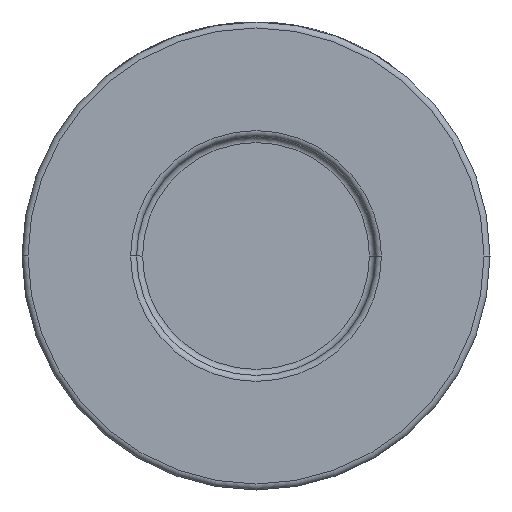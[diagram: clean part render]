
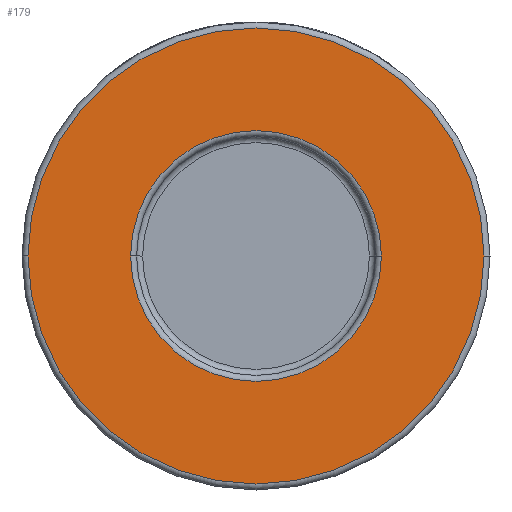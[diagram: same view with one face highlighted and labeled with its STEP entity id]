
A CAD part, front view. The second image highlights one B-rep face of the part: STEP entity #179.
In plain terms, the highlighted planar face has unit normal (0, -1, 0).
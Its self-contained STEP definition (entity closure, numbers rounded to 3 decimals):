
#106 = CARTESIAN_POINT ( 'NONE',  ( -38., -26., 0. ) ) ;
#120 = DIRECTION ( 'NONE',  ( 0., -1., 0. ) ) ;
#126 = ORIENTED_EDGE ( 'NONE', *, *, #4647, .T. ) ;
#154 = CARTESIAN_POINT ( 'NONE',  ( 0., -26., 0. ) ) ;
#174 = ORIENTED_EDGE ( 'NONE', *, *, #1791, .T. ) ;
#179 = ADVANCED_FACE ( 'NONE', ( #2852, #1122 ), #3233, .T. ) ;
#366 = CARTESIAN_POINT ( 'NONE',  ( 0., -26., 0. ) ) ;
#425 = VERTEX_POINT ( 'NONE', #4208 ) ;
#445 = CARTESIAN_POINT ( 'NONE',  ( 0., -26., 0. ) ) ;
#665 = EDGE_CURVE ( 'NONE', #425, #1176, #4403, .T. ) ;
#753 = DIRECTION ( 'NONE',  ( 0., 1., 0. ) ) ;
#864 = DIRECTION ( 'NONE',  ( 1., 0., 0. ) ) ;
#872 = DIRECTION ( 'NONE',  ( 0., -1., 0. ) ) ;
#889 = ORIENTED_EDGE ( 'NONE', *, *, #665, .T. ) ;
#1035 = CIRCLE ( 'NONE', #3302, 20.9 ) ;
#1122 = FACE_OUTER_BOUND ( 'NONE', #2784, .T. ) ;
#1176 = VERTEX_POINT ( 'NONE', #106 ) ;
#1281 = VERTEX_POINT ( 'NONE', #3124 ) ;
#1309 = AXIS2_PLACEMENT_3D ( 'NONE', #3975, #2870, #2125 ) ;
#1410 = ORIENTED_EDGE ( 'NONE', *, *, #2845, .T. ) ;
#1526 = DIRECTION ( 'NONE',  ( 0., 1., 0. ) ) ;
#1661 = DIRECTION ( 'NONE',  ( 1., 0., 0. ) ) ;
#1779 = DIRECTION ( 'NONE',  ( 1., 0., 0. ) ) ;
#1791 = EDGE_CURVE ( 'NONE', #1281, #3894, #1035, .T. ) ;
#2000 = CIRCLE ( 'NONE', #4571, 20.9 ) ;
#2125 = DIRECTION ( 'NONE',  ( 1., 0., 0. ) ) ;
#2162 = AXIS2_PLACEMENT_3D ( 'NONE', #3558, #120, #864 ) ;
#2509 = EDGE_LOOP ( 'NONE', ( #1410, #174 ) ) ;
#2784 = EDGE_LOOP ( 'NONE', ( #889, #126 ) ) ;
#2845 = EDGE_CURVE ( 'NONE', #3894, #1281, #2000, .T. ) ;
#2852 = FACE_BOUND ( 'NONE', #2509, .T. ) ;
#2870 = DIRECTION ( 'NONE',  ( 0., -1., 0. ) ) ;
#2911 = CIRCLE ( 'NONE', #2162, 38. ) ;
#2992 = DIRECTION ( 'NONE',  ( 1., 0., 0. ) ) ;
#3014 = CARTESIAN_POINT ( 'NONE',  ( 20.9, -26., 0. ) ) ;
#3124 = CARTESIAN_POINT ( 'NONE',  ( -20.9, -26., 0. ) ) ;
#3233 = PLANE ( 'NONE',  #1309 ) ;
#3302 = AXIS2_PLACEMENT_3D ( 'NONE', #366, #753, #1779 ) ;
#3558 = CARTESIAN_POINT ( 'NONE',  ( 0., -26., 0. ) ) ;
#3865 = AXIS2_PLACEMENT_3D ( 'NONE', #154, #872, #1661 ) ;
#3894 = VERTEX_POINT ( 'NONE', #3014 ) ;
#3975 = CARTESIAN_POINT ( 'NONE',  ( 39., -26., 0. ) ) ;
#4208 = CARTESIAN_POINT ( 'NONE',  ( 38., -26., 0. ) ) ;
#4403 = CIRCLE ( 'NONE', #3865, 38. ) ;
#4571 = AXIS2_PLACEMENT_3D ( 'NONE', #445, #1526, #2992 ) ;
#4647 = EDGE_CURVE ( 'NONE', #1176, #425, #2911, .T. ) ;
